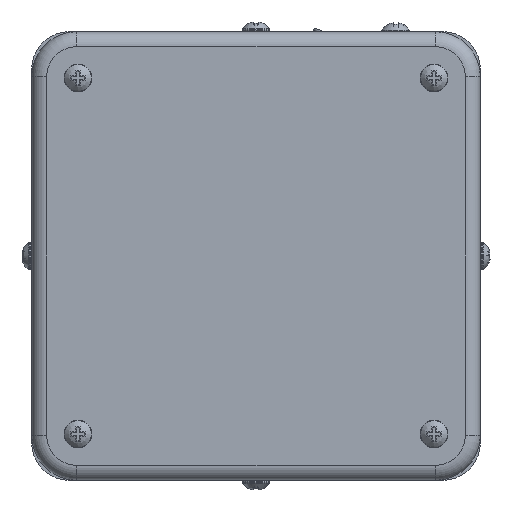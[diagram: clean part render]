
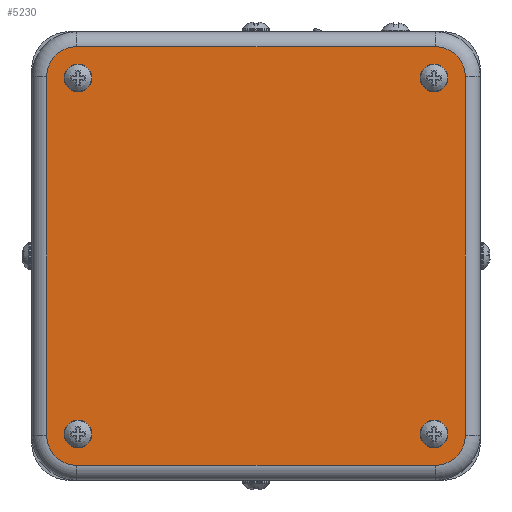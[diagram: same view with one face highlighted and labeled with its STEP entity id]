
A CAD part, left-side view. The second image highlights one B-rep face of the part: STEP entity #5230.
In plain terms, the highlighted planar face has unit normal (-1, 0, 0).
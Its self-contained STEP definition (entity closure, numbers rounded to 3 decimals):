
#399=LINE('',#8809,#757);
#400=LINE('',#8813,#758);
#401=LINE('',#8817,#759);
#402=LINE('',#8820,#760);
#757=VECTOR('',#6638,72.);
#758=VECTOR('',#6641,72.);
#759=VECTOR('',#6644,72.);
#760=VECTOR('',#6647,72.);
#1049=FACE_BOUND('',#1655,.T.);
#1050=FACE_BOUND('',#1656,.T.);
#1051=FACE_BOUND('',#1657,.T.);
#1052=FACE_BOUND('',#1658,.T.);
#1282=FACE_OUTER_BOUND('',#1654,.T.);
#1654=EDGE_LOOP('',(#3983,#3984,#3985,#3986,#3987,#3988,#3989,#3990));
#1655=EDGE_LOOP('',(#3991));
#1656=EDGE_LOOP('',(#3992));
#1657=EDGE_LOOP('',(#3993));
#1658=EDGE_LOOP('',(#3994));
#1880=CIRCLE('',#5478,2.8);
#1887=CIRCLE('',#5503,2.8);
#1894=CIRCLE('',#5528,2.8);
#1924=CIRCLE('',#5644,6.);
#1925=CIRCLE('',#5645,6.);
#1926=CIRCLE('',#5646,6.);
#1927=CIRCLE('',#5647,6.);
#1928=CIRCLE('',#5648,2.8);
#2083=VERTEX_POINT('',#7410);
#2115=VERTEX_POINT('',#7605);
#2147=VERTEX_POINT('',#7802);
#2314=VERTEX_POINT('',#8805);
#2315=VERTEX_POINT('',#8806);
#2316=VERTEX_POINT('',#8808);
#2317=VERTEX_POINT('',#8810);
#2318=VERTEX_POINT('',#8812);
#2319=VERTEX_POINT('',#8814);
#2320=VERTEX_POINT('',#8816);
#2321=VERTEX_POINT('',#8818);
#2322=VERTEX_POINT('',#8821);
#2586=EDGE_CURVE('',#2083,#2083,#1880,.T.);
#2631=EDGE_CURVE('',#2115,#2115,#1887,.T.);
#2676=EDGE_CURVE('',#2147,#2147,#1894,.T.);
#2912=EDGE_CURVE('',#2314,#2315,#1924,.T.);
#2913=EDGE_CURVE('',#2316,#2314,#399,.T.);
#2914=EDGE_CURVE('',#2317,#2316,#1925,.T.);
#2915=EDGE_CURVE('',#2318,#2317,#400,.T.);
#2916=EDGE_CURVE('',#2319,#2318,#1926,.T.);
#2917=EDGE_CURVE('',#2320,#2319,#401,.T.);
#2918=EDGE_CURVE('',#2321,#2320,#1927,.T.);
#2919=EDGE_CURVE('',#2315,#2321,#402,.T.);
#2920=EDGE_CURVE('',#2322,#2322,#1928,.T.);
#3983=ORIENTED_EDGE('',*,*,#2912,.F.);
#3984=ORIENTED_EDGE('',*,*,#2913,.F.);
#3985=ORIENTED_EDGE('',*,*,#2914,.F.);
#3986=ORIENTED_EDGE('',*,*,#2915,.F.);
#3987=ORIENTED_EDGE('',*,*,#2916,.F.);
#3988=ORIENTED_EDGE('',*,*,#2917,.F.);
#3989=ORIENTED_EDGE('',*,*,#2918,.F.);
#3990=ORIENTED_EDGE('',*,*,#2919,.F.);
#3991=ORIENTED_EDGE('',*,*,#2586,.T.);
#3992=ORIENTED_EDGE('',*,*,#2920,.T.);
#3993=ORIENTED_EDGE('',*,*,#2631,.T.);
#3994=ORIENTED_EDGE('',*,*,#2676,.T.);
#4666=PLANE('',#5643);
#5230=ADVANCED_FACE('',(#1282,#1049,#1050,#1051,#1052),#4666,.F.);
#5478=AXIS2_PLACEMENT_3D('',#7411,#6120,#6121);
#5503=AXIS2_PLACEMENT_3D('',#7606,#6194,#6195);
#5528=AXIS2_PLACEMENT_3D('',#7803,#6268,#6269);
#5643=AXIS2_PLACEMENT_3D('',#8804,#6634,#6635);
#5644=AXIS2_PLACEMENT_3D('',#8807,#6636,#6637);
#5645=AXIS2_PLACEMENT_3D('',#8811,#6639,#6640);
#5646=AXIS2_PLACEMENT_3D('',#8815,#6642,#6643);
#5647=AXIS2_PLACEMENT_3D('',#8819,#6645,#6646);
#5648=AXIS2_PLACEMENT_3D('',#8822,#6648,#6649);
#6120=DIRECTION('center_axis',(1.,0.,0.));
#6121=DIRECTION('ref_axis',(0.,0.,-1.));
#6194=DIRECTION('center_axis',(1.,0.,0.));
#6195=DIRECTION('ref_axis',(0.,0.,-1.));
#6268=DIRECTION('center_axis',(1.,0.,0.));
#6269=DIRECTION('ref_axis',(0.,0.,-1.));
#6634=DIRECTION('center_axis',(1.,0.,0.));
#6635=DIRECTION('ref_axis',(0.,0.,1.));
#6636=DIRECTION('center_axis',(1.,0.,0.));
#6637=DIRECTION('ref_axis',(0.,0.707,0.707));
#6638=DIRECTION('',(0.,0.,1.));
#6639=DIRECTION('center_axis',(1.,0.,0.));
#6640=DIRECTION('ref_axis',(0.,0.707,-0.707));
#6641=DIRECTION('',(0.,1.,0.));
#6642=DIRECTION('center_axis',(1.,0.,0.));
#6643=DIRECTION('ref_axis',(0.,-0.707,-0.707));
#6644=DIRECTION('',(0.,0.,-1.));
#6645=DIRECTION('center_axis',(1.,0.,0.));
#6646=DIRECTION('ref_axis',(0.,-0.707,0.707));
#6647=DIRECTION('',(0.,-1.,0.));
#6648=DIRECTION('center_axis',(1.,0.,0.));
#6649=DIRECTION('ref_axis',(0.,0.,-1.));
#7410=CARTESIAN_POINT('',(-54.8,-35.709,-32.909));
#7411=CARTESIAN_POINT('Origin',(-54.8,-35.709,-35.709));
#7605=CARTESIAN_POINT('',(-54.8,-35.709,38.509));
#7606=CARTESIAN_POINT('Origin',(-54.8,-35.709,35.709));
#7802=CARTESIAN_POINT('',(-54.8,35.709,38.509));
#7803=CARTESIAN_POINT('Origin',(-54.8,35.709,35.709));
#8804=CARTESIAN_POINT('Origin',(-54.8,7.027,7.027));
#8805=CARTESIAN_POINT('',(-54.8,42.,36.));
#8806=CARTESIAN_POINT('',(-54.8,36.,42.));
#8807=CARTESIAN_POINT('Origin',(-54.8,36.,36.));
#8808=CARTESIAN_POINT('',(-54.8,42.,-36.));
#8809=CARTESIAN_POINT('',(-54.8,42.,-36.));
#8810=CARTESIAN_POINT('',(-54.8,36.,-42.));
#8811=CARTESIAN_POINT('Origin',(-54.8,36.,-36.));
#8812=CARTESIAN_POINT('',(-54.8,-36.,-42.));
#8813=CARTESIAN_POINT('',(-54.8,-36.,-42.));
#8814=CARTESIAN_POINT('',(-54.8,-42.,-36.));
#8815=CARTESIAN_POINT('Origin',(-54.8,-36.,-36.));
#8816=CARTESIAN_POINT('',(-54.8,-42.,36.));
#8817=CARTESIAN_POINT('',(-54.8,-42.,36.));
#8818=CARTESIAN_POINT('',(-54.8,-36.,42.));
#8819=CARTESIAN_POINT('Origin',(-54.8,-36.,36.));
#8820=CARTESIAN_POINT('',(-54.8,36.,42.));
#8821=CARTESIAN_POINT('',(-54.8,35.709,-32.909));
#8822=CARTESIAN_POINT('Origin',(-54.8,35.709,-35.709));
